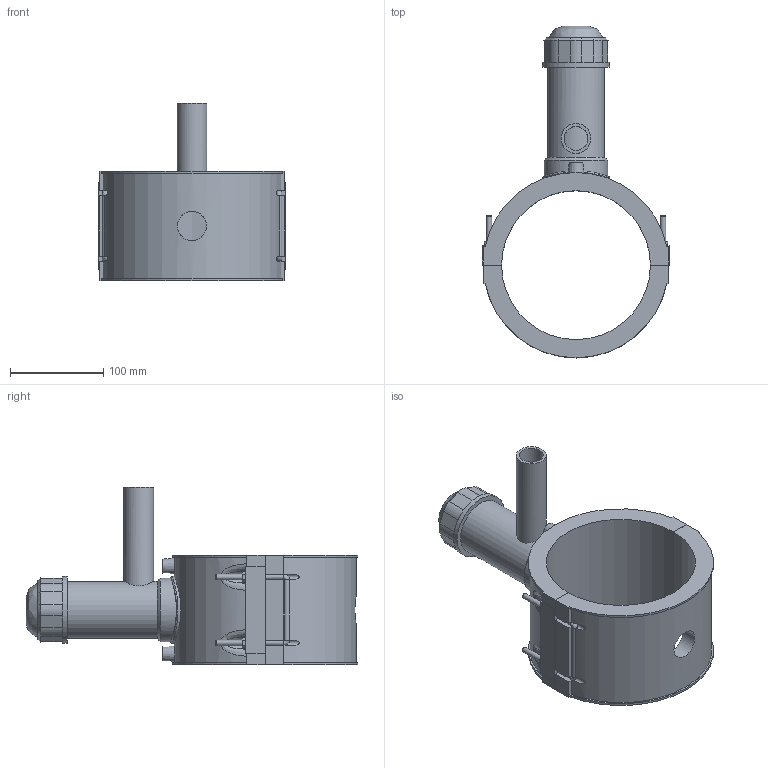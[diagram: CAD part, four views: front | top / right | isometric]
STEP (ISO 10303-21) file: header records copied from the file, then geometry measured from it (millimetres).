
FILE_DESCRIPTION(/* description */ (''),/* implementation_level */ '2;1');
FILE_NAME(/* name */ 'C:\Dropbox\KIMPROJECTS-Inventor 2019\99-16-3568-Processing\ElectroFusion Fittings\4963P4\stp\4963P4160032.stp',/* time_stamp */ '2022-03-17T11:30:04+02:00',/* author */ ('KIM'),/* organization */ (''),/* preprocessor_version */ 'ST-DEVELOPER v17.2',/* originating_system */ 'Autodesk Inventor 2019',/* authorisation */ '');
FILE_SCHEMA (('AUTOMOTIVE_DESIGN { 1 0 10303 214 3 1 1 }'));
Length unit declared in the file: millimetre
Products named in the file (1): 4963P4160032
Bounding box: 201 x 356.55 x 191 mm (x, y, z)
Volume: 1490623.1 mm3; surface area: 251800.7 mm2
Topology: 1 solids, 2 shells, 198 faces, 513 edges, 337 vertices
Faces by surface type: plane 118, cylinder 55, cone 15, bspline 10
Full cylindrical faces by diameter (mm): 4 x2, 6 x8, 10 x2, 25.6 x2, 31.36 x1, 32 x2, 50.4 x1, 61.2 x1, 68.4 x1, 72 x2
Entity records: 7594 total; most frequent: CARTESIAN_POINT 2722, ORIENTED_EDGE 1026, DIRECTION 956, EDGE_CURVE 513, VERTEX_POINT 337, AXIS2_PLACEMENT_3D 323, LINE 310, VECTOR 310
